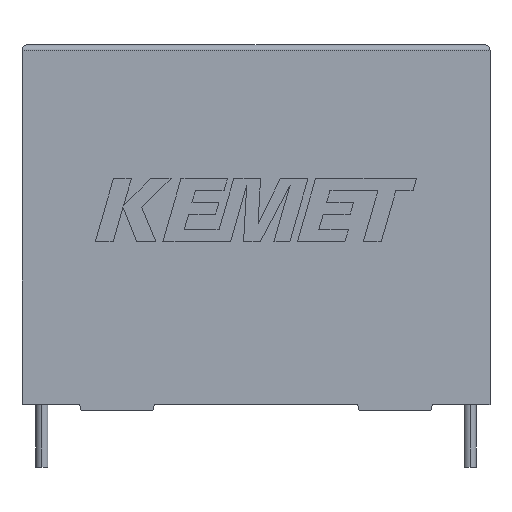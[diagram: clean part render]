
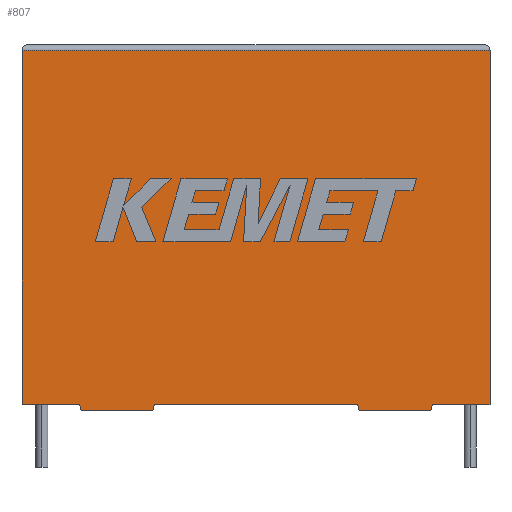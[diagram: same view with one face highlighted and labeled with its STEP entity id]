
A CAD part, top view. The second image highlights one B-rep face of the part: STEP entity #807.
In plain terms, the highlighted planar face has unit normal (0, 0, 1).
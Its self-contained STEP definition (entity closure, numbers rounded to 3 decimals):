
#1 = CARTESIAN_POINT ( 'NONE',  ( 0., 0., 16.5 ) ) ;
#43 = CARTESIAN_POINT ( 'NONE',  ( 11.453, -0.5, 16.5 ) ) ;
#132 = CARTESIAN_POINT ( 'NONE',  ( 5.03, 0., 16.5 ) ) ;
#148 = VECTOR ( 'NONE', #1307, 1000. ) ;
#243 = ORIENTED_EDGE ( 'NONE', *, *, #966, .T. ) ;
#263 = VECTOR ( 'NONE', #284, 1000. ) ;
#284 = DIRECTION ( 'NONE',  ( -1., 0., 0. ) ) ;
#307 = ORIENTED_EDGE ( 'NONE', *, *, #1384, .F. ) ;
#319 = CARTESIAN_POINT ( 'NONE',  ( 5.18, -0.5, 16.5 ) ) ;
#326 = LINE ( 'NONE', #569, #2178 ) ;
#352 = FACE_OUTER_BOUND ( 'NONE', #3039, .T. ) ;
#394 = VECTOR ( 'NONE', #1492, 1000. ) ;
#411 = ORIENTED_EDGE ( 'NONE', *, *, #3021, .T. ) ;
#416 = LINE ( 'NONE', #2272, #148 ) ;
#463 = VECTOR ( 'NONE', #1863, 1000. ) ;
#478 = CARTESIAN_POINT ( 'NONE',  ( 0., 0., 16.5 ) ) ;
#490 = CARTESIAN_POINT ( 'NONE',  ( 0., 31., 16.5 ) ) ;
#503 = LINE ( 'NONE', #1, #2231 ) ;
#507 = VECTOR ( 'NONE', #2965, 1000. ) ;
#523 = CARTESIAN_POINT ( 'NONE',  ( 29.397, 0., 16.5 ) ) ;
#534 = CARTESIAN_POINT ( 'NONE',  ( 35.82, -0.5, 16.5 ) ) ;
#539 = LINE ( 'NONE', #1616, #463 ) ;
#569 = CARTESIAN_POINT ( 'NONE',  ( 35.97, 0., 16.5 ) ) ;
#597 = CARTESIAN_POINT ( 'NONE',  ( 0., 0., 16.5 ) ) ;
#624 = DIRECTION ( 'NONE',  ( 1., 0., 0. ) ) ;
#688 = CARTESIAN_POINT ( 'NONE',  ( 11.603, 0., 16.5 ) ) ;
#726 = DIRECTION ( 'NONE',  ( 0., 0., -1. ) ) ;
#727 = VERTEX_POINT ( 'NONE', #2169 ) ;
#757 = CARTESIAN_POINT ( 'NONE',  ( 0., 0., 16.5 ) ) ;
#777 = VERTEX_POINT ( 'NONE', #1700 ) ;
#807 = ADVANCED_FACE ( 'NONE', ( #352 ), #3169, .F. ) ;
#842 = DIRECTION ( 'NONE',  ( -0.287, -0.958, 0. ) ) ;
#852 = LINE ( 'NONE', #3219, #2774 ) ;
#950 = EDGE_CURVE ( 'NONE', #2610, #1318, #3137, .T. ) ;
#966 = EDGE_CURVE ( 'NONE', #2587, #1368, #2590, .T. ) ;
#1019 = ORIENTED_EDGE ( 'NONE', *, *, #2249, .T. ) ;
#1046 = CARTESIAN_POINT ( 'NONE',  ( 35.97, 0., 16.5 ) ) ;
#1055 = LINE ( 'NONE', #2120, #1300 ) ;
#1071 = ORIENTED_EDGE ( 'NONE', *, *, #1228, .T. ) ;
#1118 = AXIS2_PLACEMENT_3D ( 'NONE', #757, #726, #1986 ) ;
#1131 = LINE ( 'NONE', #534, #263 ) ;
#1228 = EDGE_CURVE ( 'NONE', #3068, #777, #2383, .T. ) ;
#1231 = DIRECTION ( 'NONE',  ( 1., 0., 0. ) ) ;
#1300 = VECTOR ( 'NONE', #624, 1000. ) ;
#1307 = DIRECTION ( 'NONE',  ( 0.287, 0.958, 0. ) ) ;
#1318 = VERTEX_POINT ( 'NONE', #523 ) ;
#1324 = EDGE_CURVE ( 'NONE', #2459, #2568, #2504, .T. ) ;
#1368 = VERTEX_POINT ( 'NONE', #3025 ) ;
#1384 = EDGE_CURVE ( 'NONE', #727, #2610, #1131, .T. ) ;
#1423 = CARTESIAN_POINT ( 'NONE',  ( 41., 0., 16.5 ) ) ;
#1492 = DIRECTION ( 'NONE',  ( 1., 0., 0. ) ) ;
#1501 = DIRECTION ( 'NONE',  ( 0., 1., 0. ) ) ;
#1520 = LINE ( 'NONE', #1423, #3161 ) ;
#1561 = ORIENTED_EDGE ( 'NONE', *, *, #950, .F. ) ;
#1595 = EDGE_CURVE ( 'NONE', #777, #2459, #1055, .T. ) ;
#1616 = CARTESIAN_POINT ( 'NONE',  ( 0., 31., 16.5 ) ) ;
#1650 = VECTOR ( 'NONE', #2890, 1000. ) ;
#1700 = CARTESIAN_POINT ( 'NONE',  ( 0., 0., 16.5 ) ) ;
#1715 = ORIENTED_EDGE ( 'NONE', *, *, #3223, .F. ) ;
#1734 = EDGE_CURVE ( 'NONE', #2028, #1318, #503, .T. ) ;
#1863 = DIRECTION ( 'NONE',  ( -1., 0., 0. ) ) ;
#1986 = DIRECTION ( 'NONE',  ( -1., 0., 0. ) ) ;
#2028 = VERTEX_POINT ( 'NONE', #688 ) ;
#2120 = CARTESIAN_POINT ( 'NONE',  ( 0., 0., 16.5 ) ) ;
#2143 = ORIENTED_EDGE ( 'NONE', *, *, #1734, .T. ) ;
#2169 = CARTESIAN_POINT ( 'NONE',  ( 35.82, -0.5, 16.5 ) ) ;
#2172 = VERTEX_POINT ( 'NONE', #2499 ) ;
#2178 = VECTOR ( 'NONE', #842, 1000. ) ;
#2231 = VECTOR ( 'NONE', #3231, 1000. ) ;
#2249 = EDGE_CURVE ( 'NONE', #3066, #2028, #416, .T. ) ;
#2262 = ORIENTED_EDGE ( 'NONE', *, *, #2915, .T. ) ;
#2272 = CARTESIAN_POINT ( 'NONE',  ( 11.453, -0.5, 16.5 ) ) ;
#2344 = ORIENTED_EDGE ( 'NONE', *, *, #1595, .T. ) ;
#2383 = LINE ( 'NONE', #597, #1650 ) ;
#2459 = VERTEX_POINT ( 'NONE', #132 ) ;
#2482 = DIRECTION ( 'NONE',  ( 0.287, -0.958, 0. ) ) ;
#2499 = CARTESIAN_POINT ( 'NONE',  ( 41., 31., 16.5 ) ) ;
#2504 = LINE ( 'NONE', #3182, #2930 ) ;
#2568 = VERTEX_POINT ( 'NONE', #319 ) ;
#2587 = VERTEX_POINT ( 'NONE', #1046 ) ;
#2590 = LINE ( 'NONE', #478, #394 ) ;
#2610 = VERTEX_POINT ( 'NONE', #2805 ) ;
#2705 = ORIENTED_EDGE ( 'NONE', *, *, #1324, .T. ) ;
#2730 = EDGE_CURVE ( 'NONE', #2172, #3068, #539, .T. ) ;
#2774 = VECTOR ( 'NONE', #1231, 1000. ) ;
#2805 = CARTESIAN_POINT ( 'NONE',  ( 29.547, -0.5, 16.5 ) ) ;
#2890 = DIRECTION ( 'NONE',  ( 0., -1., 0. ) ) ;
#2915 = EDGE_CURVE ( 'NONE', #1368, #2172, #1520, .T. ) ;
#2930 = VECTOR ( 'NONE', #2482, 1000. ) ;
#2965 = DIRECTION ( 'NONE',  ( -0.287, 0.958, 0. ) ) ;
#2982 = CARTESIAN_POINT ( 'NONE',  ( 29.547, -0.5, 16.5 ) ) ;
#3021 = EDGE_CURVE ( 'NONE', #2568, #3066, #852, .T. ) ;
#3025 = CARTESIAN_POINT ( 'NONE',  ( 41., 0., 16.5 ) ) ;
#3039 = EDGE_LOOP ( 'NONE', ( #2262, #3234, #1071, #2344, #2705, #411, #1019, #2143, #1561, #307, #1715, #243 ) ) ;
#3066 = VERTEX_POINT ( 'NONE', #43 ) ;
#3068 = VERTEX_POINT ( 'NONE', #490 ) ;
#3137 = LINE ( 'NONE', #2982, #507 ) ;
#3161 = VECTOR ( 'NONE', #1501, 1000. ) ;
#3169 = PLANE ( 'NONE',  #1118 ) ;
#3182 = CARTESIAN_POINT ( 'NONE',  ( 5.03, 0., 16.5 ) ) ;
#3219 = CARTESIAN_POINT ( 'NONE',  ( 5.18, -0.5, 16.5 ) ) ;
#3223 = EDGE_CURVE ( 'NONE', #2587, #727, #326, .T. ) ;
#3231 = DIRECTION ( 'NONE',  ( 1., 0., 0. ) ) ;
#3234 = ORIENTED_EDGE ( 'NONE', *, *, #2730, .T. ) ;
